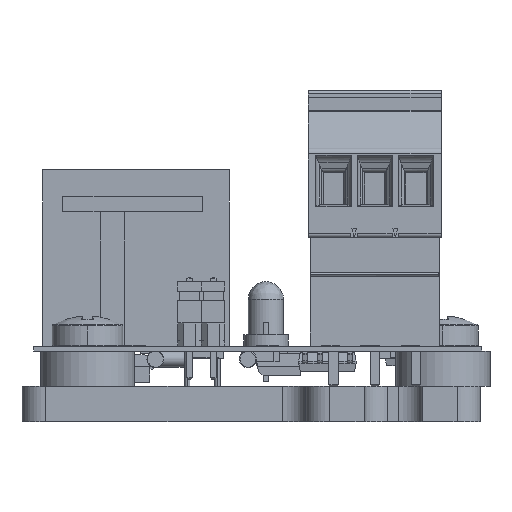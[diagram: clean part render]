
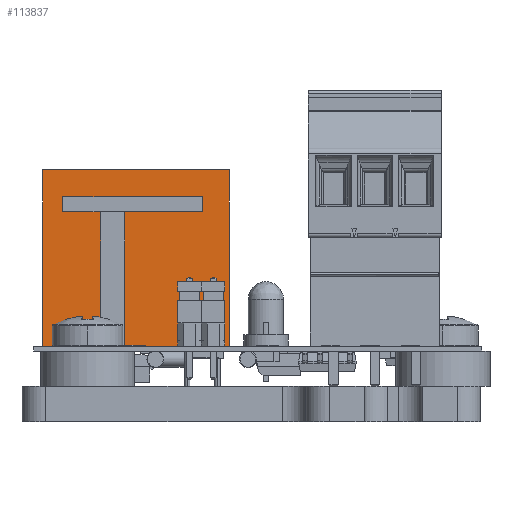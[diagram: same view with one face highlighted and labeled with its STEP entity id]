
A CAD part, left-side view. The second image highlights one B-rep face of the part: STEP entity #113837.
In plain terms, the highlighted planar face has unit normal (-1, 0, 0).
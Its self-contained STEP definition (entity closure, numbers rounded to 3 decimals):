
#95 = CARTESIAN_POINT ( 'NONE',  ( 8.615, 21.464, 12.74 ) ) ;
#997 = CARTESIAN_POINT ( 'NONE',  ( 8.615, 35.624, 11.44 ) ) ;
#1275 = ORIENTED_EDGE ( 'NONE', *, *, #145196, .T. ) ;
#2630 = EDGE_CURVE ( 'NONE', #113893, #85010, #154101, .T. ) ;
#6224 = CARTESIAN_POINT ( 'NONE',  ( 8.615, 21.464, 0. ) ) ;
#6247 = CARTESIAN_POINT ( 'NONE',  ( 8.615, 23.754, 11.44 ) ) ;
#7029 = LINE ( 'NONE', #43400, #8366 ) ;
#8366 = VECTOR ( 'NONE', #67949, 1000. ) ;
#10795 = VECTOR ( 'NONE', #68244, 1000. ) ;
#18602 = CARTESIAN_POINT ( 'NONE',  ( 8.615, 21.464, 0. ) ) ;
#22150 = LINE ( 'NONE', #94126, #59382 ) ;
#23240 = EDGE_CURVE ( 'NONE', #149508, #125113, #41014, .T. ) ;
#24778 = CARTESIAN_POINT ( 'NONE',  ( 8.615, 21.464, 11.44 ) ) ;
#26139 = CARTESIAN_POINT ( 'NONE',  ( 8.615, 32.384, 0. ) ) ;
#26301 = DIRECTION ( 'NONE',  ( 0., 1., 0. ) ) ;
#27468 = VERTEX_POINT ( 'NONE', #6247 ) ;
#27576 = EDGE_CURVE ( 'NONE', #80849, #27468, #7029, .T. ) ;
#28489 = LINE ( 'NONE', #26139, #139122 ) ;
#30238 = EDGE_CURVE ( 'NONE', #125113, #117211, #33670, .T. ) ;
#31598 = EDGE_LOOP ( 'NONE', ( #71231, #153748, #134793, #154692, #1275, #57635, #47683, #48674, #102555, #109303, #152603, #90349 ) ) ;
#32489 = DIRECTION ( 'NONE',  ( -1., 0., 0. ) ) ;
#33670 = LINE ( 'NONE', #55953, #127816 ) ;
#38821 = CARTESIAN_POINT ( 'NONE',  ( 8.615, 37.334, 0. ) ) ;
#39598 = DIRECTION ( 'NONE',  ( 0., 0., -1. ) ) ;
#41014 = LINE ( 'NONE', #139000, #117701 ) ;
#43400 = CARTESIAN_POINT ( 'NONE',  ( 8.615, 23.754, 0. ) ) ;
#44152 = DIRECTION ( 'NONE',  ( 0., 1., 0. ) ) ;
#47438 = CARTESIAN_POINT ( 'NONE',  ( 8.615, 21.464, 0. ) ) ;
#47683 = ORIENTED_EDGE ( 'NONE', *, *, #30238, .T. ) ;
#48674 = ORIENTED_EDGE ( 'NONE', *, *, #78559, .T. ) ;
#53996 = EDGE_CURVE ( 'NONE', #85010, #141759, #80837, .T. ) ;
#55560 = CARTESIAN_POINT ( 'NONE',  ( 8.615, 21.464, 0. ) ) ;
#55953 = CARTESIAN_POINT ( 'NONE',  ( 8.615, 35.624, 0. ) ) ;
#57635 = ORIENTED_EDGE ( 'NONE', *, *, #23240, .T. ) ;
#59382 = VECTOR ( 'NONE', #143095, 1000. ) ;
#60431 = LINE ( 'NONE', #24778, #136269 ) ;
#61920 = EDGE_CURVE ( 'NONE', #141759, #129939, #107813, .T. ) ;
#63190 = EDGE_CURVE ( 'NONE', #27468, #137262, #60431, .T. ) ;
#64323 = VECTOR ( 'NONE', #154853, 1000. ) ;
#66336 = EDGE_CURVE ( 'NONE', #76878, #114837, #103509, .T. ) ;
#67949 = DIRECTION ( 'NONE',  ( 0., 0., -1. ) ) ;
#68244 = DIRECTION ( 'NONE',  ( 0., 0., 1. ) ) ;
#70545 = CARTESIAN_POINT ( 'NONE',  ( 8.615, 21.464, 0. ) ) ;
#71231 = ORIENTED_EDGE ( 'NONE', *, *, #53996, .T. ) ;
#76700 = DIRECTION ( 'NONE',  ( 0., 0., 1. ) ) ;
#76878 = VERTEX_POINT ( 'NONE', #119970 ) ;
#78559 = EDGE_CURVE ( 'NONE', #117211, #80849, #94166, .T. ) ;
#79984 = CARTESIAN_POINT ( 'NONE',  ( 8.615, 32.384, 0. ) ) ;
#80764 = CARTESIAN_POINT ( 'NONE',  ( 8.615, 30.364, 11.44 ) ) ;
#80837 = LINE ( 'NONE', #70545, #10795 ) ;
#80849 = VERTEX_POINT ( 'NONE', #96765 ) ;
#81292 = DIRECTION ( 'NONE',  ( 0., -1., 0. ) ) ;
#85010 = VERTEX_POINT ( 'NONE', #18602 ) ;
#86308 = LINE ( 'NONE', #38821, #123683 ) ;
#86419 = CARTESIAN_POINT ( 'NONE',  ( 8.615, 21.464, 15.01 ) ) ;
#87018 = CARTESIAN_POINT ( 'NONE',  ( 8.615, 30.364, 0. ) ) ;
#88896 = VECTOR ( 'NONE', #95734, 1000. ) ;
#90349 = ORIENTED_EDGE ( 'NONE', *, *, #2630, .T. ) ;
#90828 = VECTOR ( 'NONE', #81292, 1000. ) ;
#94126 = CARTESIAN_POINT ( 'NONE',  ( 8.615, 30.364, 0. ) ) ;
#94166 = LINE ( 'NONE', #95, #88896 ) ;
#94600 = DIRECTION ( 'NONE',  ( 0., 0., 1. ) ) ;
#94615 = CARTESIAN_POINT ( 'NONE',  ( 8.615, 21.464, 15.01 ) ) ;
#95734 = DIRECTION ( 'NONE',  ( 0., -1., 0. ) ) ;
#96765 = CARTESIAN_POINT ( 'NONE',  ( 8.615, 23.754, 12.74 ) ) ;
#102555 = ORIENTED_EDGE ( 'NONE', *, *, #27576, .T. ) ;
#102721 = CARTESIAN_POINT ( 'NONE',  ( 8.615, 37.334, 15.01 ) ) ;
#103509 = LINE ( 'NONE', #6224, #90828 ) ;
#107813 = LINE ( 'NONE', #86419, #123369 ) ;
#107931 = EDGE_CURVE ( 'NONE', #137262, #113893, #22150, .T. ) ;
#109303 = ORIENTED_EDGE ( 'NONE', *, *, #63190, .T. ) ;
#109432 = DIRECTION ( 'NONE',  ( 0., 1., 0. ) ) ;
#110006 = DIRECTION ( 'NONE',  ( 0., 0., -1. ) ) ;
#113837 = ADVANCED_FACE ( 'NONE', ( #129048 ), #151863, .T. ) ;
#113893 = VERTEX_POINT ( 'NONE', #87018 ) ;
#114837 = VERTEX_POINT ( 'NONE', #79984 ) ;
#117211 = VERTEX_POINT ( 'NONE', #122974 ) ;
#117701 = VECTOR ( 'NONE', #44152, 1000. ) ;
#119970 = CARTESIAN_POINT ( 'NONE',  ( 8.615, 37.334, 0. ) ) ;
#122974 = CARTESIAN_POINT ( 'NONE',  ( 8.615, 35.624, 12.74 ) ) ;
#123369 = VECTOR ( 'NONE', #26301, 1000. ) ;
#123683 = VECTOR ( 'NONE', #39598, 1000. ) ;
#124164 = AXIS2_PLACEMENT_3D ( 'NONE', #55560, #32489, #110006 ) ;
#125113 = VERTEX_POINT ( 'NONE', #997 ) ;
#127816 = VECTOR ( 'NONE', #94600, 1000. ) ;
#129048 = FACE_OUTER_BOUND ( 'NONE', #31598, .T. ) ;
#129939 = VERTEX_POINT ( 'NONE', #102721 ) ;
#134466 = EDGE_CURVE ( 'NONE', #129939, #76878, #86308, .T. ) ;
#134793 = ORIENTED_EDGE ( 'NONE', *, *, #134466, .T. ) ;
#136269 = VECTOR ( 'NONE', #109432, 1000. ) ;
#137262 = VERTEX_POINT ( 'NONE', #80764 ) ;
#139000 = CARTESIAN_POINT ( 'NONE',  ( 8.615, 21.464, 11.44 ) ) ;
#139122 = VECTOR ( 'NONE', #76700, 1000. ) ;
#141759 = VERTEX_POINT ( 'NONE', #94615 ) ;
#143095 = DIRECTION ( 'NONE',  ( 0., 0., -1. ) ) ;
#143595 = CARTESIAN_POINT ( 'NONE',  ( 8.615, 32.384, 11.44 ) ) ;
#145196 = EDGE_CURVE ( 'NONE', #114837, #149508, #28489, .T. ) ;
#149508 = VERTEX_POINT ( 'NONE', #143595 ) ;
#151863 = PLANE ( 'NONE',  #124164 ) ;
#152603 = ORIENTED_EDGE ( 'NONE', *, *, #107931, .T. ) ;
#153748 = ORIENTED_EDGE ( 'NONE', *, *, #61920, .T. ) ;
#154101 = LINE ( 'NONE', #47438, #64323 ) ;
#154692 = ORIENTED_EDGE ( 'NONE', *, *, #66336, .T. ) ;
#154853 = DIRECTION ( 'NONE',  ( 0., -1., 0. ) ) ;
